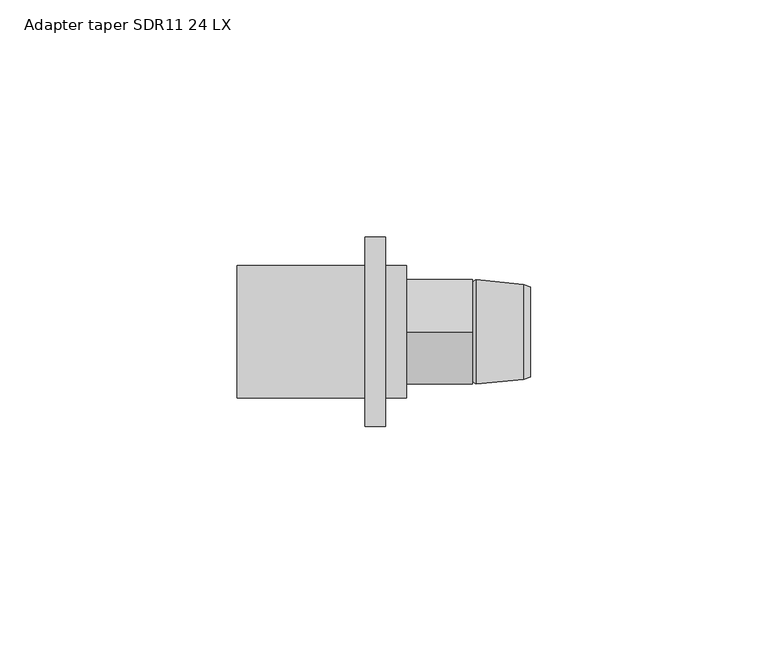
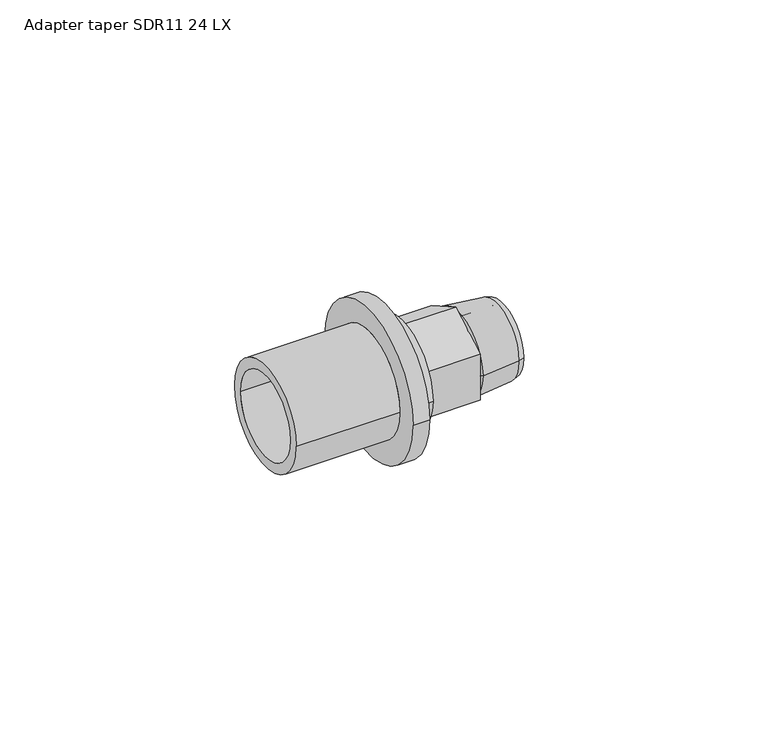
"""IFC4 building model written with IfcOpenShell, lengths in millimetres: pipe fitting geometry, Adapter taper SDR11 LX 24 Grad : Adapter taper SDR11 24 LX."""

from ifc_helpers import new_model, si_unit, frame, origin, place, context, project, spatial, polyline, circle_curve, outline, extrude, source, transform, mapped, element, save
from ifc_brep_helpers import plane_surface, cylinder_surface, revolved_surface, advanced_brep


def adapter_taper_sdr11_24_lx_bbcb70a0(model_context):
    return source(origin(), model_context, "Body", "SolidModel", [
        advanced_brep(
        [(-8.7, 13.95, 0.0), (-8.7, -13.95, 0.0), (-35.7, -13.95, 0.0), (-35.7, 13.95, 0.0), (-4.4, 20.0, 0.0), (-4.4, -20.0, 0.0), (-8.7, -20.0, 0.0), (-8.7, 20.0, 0.0), (0.0, 13.95, 0.0), (0.0, -13.95, 0.0), (-4.4, -13.95, 0.0), (-4.4, 13.95, 0.0), (-35.7, 11.2, 0.0), (-35.7, -11.2, 0.0), (0.0, -11.2, 0.0), (0.0, 11.2, 0.0)],
        [
            (0, 1, circle_curve(frame((-8.7, 0.0, 0.0), z_axis=(-1.0, 0.0, 0.0), x_axis=(0.0, -1.0, 0.0)), 13.95)),
            (1, 2),
            (2, 3, circle_curve(frame((-35.7, 0.0, 0.0), z_axis=(1.0, 0.0, 0.0), x_axis=(0.0, -1.0, 0.0)), 13.95)),
            (3, 0),
            (4, 5, circle_curve(frame((-4.4, 0.0, 0.0), z_axis=(-1.0, 0.0, 0.0), x_axis=(0.0, -1.0, 0.0)), 20.0)),
            (5, 6),
            (6, 7, circle_curve(frame((-8.7, 0.0, 0.0), z_axis=(1.0, 0.0, 0.0), x_axis=(0.0, -1.0, 0.0)), 20.0)),
            (7, 4),
            (8, 9, circle_curve(frame((0.0, 0.0, 0.0), z_axis=(-1.0, 0.0, 0.0), x_axis=(0.0, -1.0, 0.0)), 13.95)),
            (9, 10),
            (10, 11, circle_curve(frame((-4.4, 0.0, 0.0), z_axis=(1.0, 0.0, 0.0), x_axis=(0.0, -1.0, 0.0)), 13.95)),
            (11, 8),
            (12, 13, circle_curve(frame((-35.7, 0.0, 0.0), z_axis=(-1.0, 0.0, 0.0), x_axis=(0.0, -1.0, 0.0)), 11.2)),
            (13, 14),
            (14, 15, circle_curve(frame((0.0, 0.0, 0.0), z_axis=(1.0, 0.0, 0.0), x_axis=(0.0, -1.0, 0.0)), 11.2)),
            (15, 12),
            (2, 3, circle_curve(frame((-35.7, 0.0, 0.0), z_axis=(-1.0, 0.0, 0.0), x_axis=(0.0, 1.0, 0.0)), 13.95)),
            (12, 13, circle_curve(frame((-35.7, 0.0, 0.0), z_axis=(1.0, 0.0, 0.0), x_axis=(0.0, 1.0, 0.0)), 11.2)),
            (1, 0, circle_curve(frame((-8.7, 0.0, 0.0), z_axis=(-1.0, 0.0, 0.0), x_axis=(0.0, 1.0, 0.0)), 13.95)),
            (6, 7, circle_curve(frame((-8.7, 0.0, 0.0), z_axis=(-1.0, 0.0, 0.0), x_axis=(0.0, 1.0, 0.0)), 20.0)),
            (5, 4, circle_curve(frame((-4.4, 0.0, 0.0), z_axis=(-1.0, 0.0, 0.0), x_axis=(0.0, 1.0, 0.0)), 20.0)),
            (10, 11, circle_curve(frame((-4.4, 0.0, 0.0), z_axis=(-1.0, 0.0, 0.0), x_axis=(0.0, 1.0, 0.0)), 13.95)),
            (9, 8, circle_curve(frame((0.0, 0.0, 0.0), z_axis=(-1.0, 0.0, 0.0), x_axis=(0.0, 1.0, 0.0)), 13.95)),
            (14, 15, circle_curve(frame((0.0, 0.0, 0.0), z_axis=(-1.0, 0.0, 0.0), x_axis=(0.0, 1.0, 0.0)), 11.2)),
        ],
        [
            cylinder_surface(frame((0.0, 0.0, 0.0), z_axis=(1.0, 0.0, 0.0), x_axis=(0.0, -1.0, 0.0)), 13.95),
            cylinder_surface(frame((0.0, 0.0, 0.0), z_axis=(1.0, 0.0, 0.0), x_axis=(0.0, -1.0, 0.0)), 20.0),
            revolved_surface(polyline([(0.0, -11.2, 0.0), (-35.7, -11.2, 0.0)]), (0.0, 0.0, 0.0), (1.0, 0.0, 0.0)),
            plane_surface(frame((-35.7, 0.0, 0.0), z_axis=(-1.0, 0.0, 0.0), x_axis=(0.0, 1.0, 0.0))),
            cylinder_surface(frame((0.0, 0.0, 0.0), z_axis=(1.0, 0.0, 0.0), x_axis=(0.0, 1.0, 0.0)), 13.95),
            plane_surface(frame((-8.7, 0.0, 0.0), z_axis=(-1.0, 0.0, 0.0), x_axis=(0.0, 1.0, 0.0))),
            cylinder_surface(frame((0.0, 0.0, 0.0), z_axis=(1.0, 0.0, 0.0), x_axis=(0.0, 1.0, 0.0)), 20.0),
            plane_surface(frame((-4.4, 0.0, 0.0), z_axis=(1.0, 0.0, 0.0), x_axis=(0.0, 1.0, 0.0))),
            plane_surface(frame((0.0, 0.0, 0.0), z_axis=(1.0, 0.0, 0.0), x_axis=(0.0, 1.0, 0.0))),
            revolved_surface(polyline([(0.0, 11.2, 0.0), (-35.7, 11.2, 0.0)]), (0.0, 0.0, 0.0), (1.0, 0.0, 0.0)),
        ],
        [
            (0, [[1, 2, 3, 4]]),
            (1, [[5, 6, 7, 8]]),
            (0, [[9, 10, 11, 12]]),
            (2, [[13, 14, 15, 16]]),
            (3, [[17, -3], [18, -13]]),
            (4, [[19, -4, -17, -2]]),
            (5, [[20, -7], [-19, -1]]),
            (6, [[21, -8, -20, -6]]),
            (7, [[-21, -5], [22, -11]]),
            (4, [[23, -12, -22, -10]]),
            (8, [[-23, -9], [24, -15]]),
            (9, [[-18, -16, -24, -14]]),
        ],
    ),
        advanced_brep(
        [(15.1032803, 7.5, 0.0), (15.1032803, -7.5, 0.0), (26.2, -7.5, 0.0), (26.2, 7.5, 0.0), (14.0, 6.3967197, 0.0), (14.0, -6.3967197, 0.0), (14.7406902, 11.0, 0.0), (14.7406902, -11.0, 0.0), (14.0, -10.5, 0.0), (14.0, 10.5, 0.0), (24.7000007, 10.0, 0.0), (24.7000007, -10.0, 0.0), (26.2, 9.5, 0.0), (26.2, -9.5, 0.0)],
        [
            (0, 1, circle_curve(frame((15.1032803, 0.0, 0.0), z_axis=(-1.0, 0.0, 0.0), x_axis=(0.0, -1.0, 0.0)), 7.5)),
            (1, 2),
            (2, 3, circle_curve(frame((26.2, 0.0, 0.0), z_axis=(1.0, 0.0, 0.0), x_axis=(0.0, -1.0, 0.0)), 7.5)),
            (3, 0),
            (4, 5, circle_curve(frame((14.0, 0.0, 0.0), z_axis=(-1.0, 0.0, 0.0), x_axis=(0.0, -1.0, 0.0)), 6.3967197)),
            (5, 1),
            (0, 4),
            (6, 7, circle_curve(frame((14.7406902, 0.0, 0.0), z_axis=(-1.0, 0.0, 0.0), x_axis=(0.0, -1.0, 0.0)), 11.0)),
            (7, 8),
            (8, 9, circle_curve(frame((14.0, 0.0, 0.0), z_axis=(1.0, 0.0, 0.0), x_axis=(0.0, -1.0, 0.0)), 10.5)),
            (9, 6),
            (10, 11, circle_curve(frame((24.7000007, 0.0, 0.0), z_axis=(-1.0, 0.0, 0.0), x_axis=(0.0, -1.0, 0.0)), 10.0)),
            (11, 7),
            (6, 10),
            (12, 13, circle_curve(frame((26.2, 0.0, 0.0), z_axis=(-1.0, 0.0, 0.0), x_axis=(0.0, -1.0, 0.0)), 9.5)),
            (13, 11),
            (10, 12),
            (1, 0, circle_curve(frame((15.1032803, 0.0, 0.0), z_axis=(-1.0, 0.0, 0.0), x_axis=(0.0, 1.0, 0.0)), 7.5)),
            (3, 2, circle_curve(frame((26.2, 0.0, 0.0), z_axis=(1.0, 0.0, 0.0), x_axis=(0.0, 1.0, 0.0)), 7.5)),
            (5, 4, circle_curve(frame((14.0, 0.0, 0.0), z_axis=(-1.0, 0.0, 0.0), x_axis=(0.0, 1.0, 0.0)), 6.3967197)),
            (8, 9, circle_curve(frame((14.0, 0.0, 0.0), z_axis=(-1.0, 0.0, 0.0), x_axis=(0.0, 1.0, 0.0)), 10.5)),
            (7, 6, circle_curve(frame((14.7406902, 0.0, 0.0), z_axis=(-1.0, 0.0, 0.0), x_axis=(0.0, 1.0, 0.0)), 11.0)),
            (11, 10, circle_curve(frame((24.7000007, 0.0, 0.0), z_axis=(-1.0, 0.0, 0.0), x_axis=(0.0, 1.0, 0.0)), 10.0)),
            (13, 12, circle_curve(frame((26.2, 0.0, 0.0), z_axis=(-1.0, 0.0, 0.0), x_axis=(0.0, 1.0, 0.0)), 9.5)),
        ],
        [
            revolved_surface(polyline([(26.2, -7.5, 0.0), (15.1032803, -7.5, 0.0)]), (0.0, 0.0, 0.0), (1.0, 0.0, 0.0)),
            revolved_surface(polyline([(15.1032803, -7.5, 0.0), (14.0, -6.3967197, 0.0)]), (0.0, 0.0, 0.0), (1.0, 0.0, 0.0)),
            revolved_surface(polyline([(14.0, -10.5, 0.0), (14.7406902, -11.0, 0.0)]), (0.0, 0.0, 0.0), (1.0, 0.0, 0.0)),
            revolved_surface(polyline([(14.7406902, -11.0, 0.0), (24.7000007, -10.0, 0.0)]), (0.0, 0.0, 0.0), (1.0, 0.0, 0.0)),
            revolved_surface(polyline([(24.7000007, -10.0, 0.0), (26.2, -9.5, 0.0)]), (0.0, 0.0, 0.0), (1.0, 0.0, 0.0)),
            revolved_surface(polyline([(26.2, 7.5, 0.0), (15.1032803, 7.5, 0.0)]), (0.0, 0.0, 0.0), (1.0, 0.0, 0.0)),
            revolved_surface(polyline([(15.1032803, 7.5, 0.0), (14.0, 6.3967197, 0.0)]), (0.0, 0.0, 0.0), (1.0, 0.0, 0.0)),
            plane_surface(frame((14.0, 0.0, 0.0), z_axis=(-1.0, 0.0, 0.0), x_axis=(0.0, 1.0, 0.0))),
            revolved_surface(polyline([(14.0, 10.5, 0.0), (14.7406902, 11.0, 0.0)]), (0.0, 0.0, 0.0), (1.0, 0.0, 0.0)),
            revolved_surface(polyline([(14.7406902, 11.0, 0.0), (24.7000007, 10.0, 0.0)]), (0.0, 0.0, 0.0), (1.0, 0.0, 0.0)),
            revolved_surface(polyline([(24.7000007, 10.0, 0.0), (26.2, 9.5, 0.0)]), (0.0, 0.0, 0.0), (1.0, 0.0, 0.0)),
            plane_surface(frame((26.2, 0.0, 0.0), z_axis=(1.0, 0.0, 0.0), x_axis=(0.0, 1.0, 0.0))),
        ],
        [
            (0, [[1, 2, 3, 4]]),
            (1, [[5, 6, -1, 7]]),
            (2, [[8, 9, 10, 11]]),
            (3, [[12, 13, -8, 14]]),
            (4, [[15, 16, -12, 17]]),
            (5, [[18, -4, 19, -2]]),
            (6, [[20, -7, -18, -6]]),
            (7, [[21, -10], [-20, -5]]),
            (8, [[22, -11, -21, -9]]),
            (9, [[23, -14, -22, -13]]),
            (10, [[24, -17, -23, -16]]),
            (11, [[-24, -15], [-19, -3]]),
        ],
    ),
        extrude(outline(polyline([(-11.0, 6.350853), (0.0, 12.7017059), (11.0, 6.350853), (11.0, -6.350853), (0.0, -12.7017059), (-11.0, -6.350853), (-11.0, 6.350853)])), frame((0.0, 0.0, 0.0), z_axis=(1.0, 0.0, 0.0), x_axis=(0.0, 1.0, 0.0)), (0.0, 0.0, 1.0), 14.0),
    ])


if __name__ == "__main__":
    model = new_model("IFC4")
    model_context = context("Model", 3, world=origin())
    ifc_project = project(units=[si_unit("LENGTHUNIT", "METRE", prefix="MILLI")], contexts=[model_context])
    site = spatial("IfcSite", under=ifc_project)
    building = spatial("IfcBuilding", under=site)
    placement = place(None, origin())
    adapter_taper_sdr11_24_lx_shape = adapter_taper_sdr11_24_lx_bbcb70a0(model_context)
    element("IfcPipeFitting", 1, ObjectType="Adapter taper SDR11 LX 24 Grad : Adapter taper SDR11 24 LX", at=placement, inside=building, context=model_context, shape_type="MappedRepresentation", body=[
        mapped(adapter_taper_sdr11_24_lx_shape, transform((0.0, 0.0, 0.0), x_axis=(1.0, 0.0, 0.0), y_axis=(0.0, 1.0, 0.0), z_axis=(0.0, 0.0, 1.0))),
    ])
    save(model, "model.ifc")
